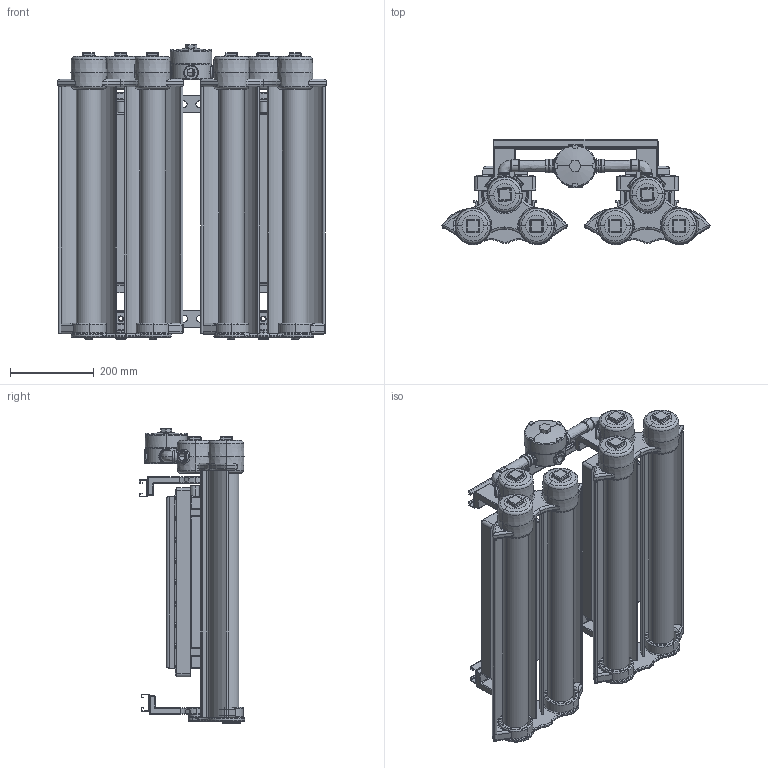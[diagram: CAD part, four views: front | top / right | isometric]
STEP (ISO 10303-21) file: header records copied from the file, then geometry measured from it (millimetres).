
FILE_DESCRIPTION (( 'STEP AP214' ), '1' );
FILE_NAME ('EPL-EMG-24-4L-SFC.STEP', '2015-09-04T18:46:46', ( '' ), ( '' ), 'SwSTEP 2.0', 'SolidWorks 2015', '' );
FILE_SCHEMA (( 'AUTOMOTIVE_DESIGN' ));
Length unit declared in the file: inch
Products named in the file (1): EPL-EMG-24-4L-SFC
Bounding box: 641.13 x 250.68 x 702.51 mm (x, y, z)
Surface area: 2596064.3 mm2 (no closed solid volume)
Topology: 0 solids, 53 shells, 1571 faces, 4625 edges, 3024 vertices
Faces by surface type: plane 613, cylinder 490, torus 291, cone 74, bspline 64, sphere 39
Entity records: 75540 total; most frequent: CARTESIAN_POINT 23312, DIRECTION 8540, ORIENTED_EDGE 8042, EDGE_CURVE 4583, AXIS2_PLACEMENT_3D 3025, VERTEX_POINT 3024, LINE 2490, VECTOR 2490
